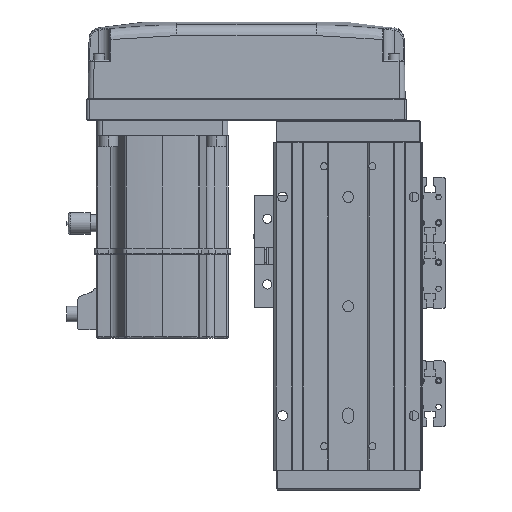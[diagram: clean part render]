
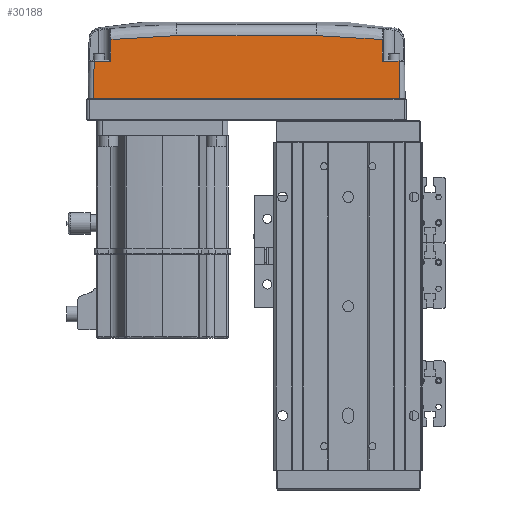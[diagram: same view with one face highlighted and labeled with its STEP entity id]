
A CAD part, front view. The second image highlights one B-rep face of the part: STEP entity #30188.
In plain terms, the highlighted planar face has unit normal (0, -1, 0.018) as drawn and (0, 1, 0.017) by its records, which use the part's own axes.
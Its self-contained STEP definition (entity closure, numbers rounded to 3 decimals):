
#286 = CARTESIAN_POINT ( 'NONE',  ( 52.017, 29.513, 27.918 ) ) ;
#619 = CARTESIAN_POINT ( 'NONE',  ( 62., 29.703, 17.009 ) ) ;
#739 = CARTESIAN_POINT ( 'NONE',  ( -37.013, 29.499, 28.712 ) ) ;
#1554 = EDGE_CURVE ( 'NONE', #19028, #39451, #9455, .T. ) ;
#2414 = EDGE_CURVE ( 'NONE', #32956, #26197, #27124, .T. ) ;
#2569 = CARTESIAN_POINT ( 'NONE',  ( 32., 29.498, 28.761 ) ) ;
#2983 = DIRECTION ( 'NONE',  ( 1., 0., 0. ) ) ;
#3517 = CARTESIAN_POINT ( 'NONE',  ( 37.013, 29.499, 28.712 ) ) ;
#3842 = LINE ( 'NONE', #16990, #21296 ) ;
#3954 = CARTESIAN_POINT ( 'NONE',  ( -52.017, 29.513, 27.918 ) ) ;
#4177 = EDGE_CURVE ( 'NONE', #39451, #30010, #3842, .T. ) ;
#4755 = LINE ( 'NONE', #17896, #17301 ) ;
#5093 = VECTOR ( 'NONE', #32792, 1000. ) ;
#5143 = VECTOR ( 'NONE', #2983, 1000. ) ;
#5881 = VECTOR ( 'NONE', #15708, 1000. ) ;
#6550 = LINE ( 'NONE', #19680, #5093 ) ;
#7054 = VERTEX_POINT ( 'NONE', #22660 ) ;
#7875 = LINE ( 'NONE', #21013, #30579 ) ;
#8026 = LINE ( 'NONE', #21167, #39802 ) ;
#8646 = CARTESIAN_POINT ( 'NONE',  ( 69.703, 29.703, 17.009 ) ) ;
#8843 = CARTESIAN_POINT ( 'NONE',  ( -72.5, 29.703, 17.009 ) ) ;
#8991 = CARTESIAN_POINT ( 'NONE',  ( -72.5, 30., 0. ) ) ;
#9455 = LINE ( 'NONE', #32476, #5143 ) ;
#9904 = VERTEX_POINT ( 'NONE', #619 ) ;
#10087 = VERTEX_POINT ( 'NONE', #19126 ) ;
#10155 = CARTESIAN_POINT ( 'NONE',  ( 62., 29.529, 27.011 ) ) ;
#11455 = CARTESIAN_POINT ( 'NONE',  ( -70., 30., 0. ) ) ;
#13015 = ORIENTED_EDGE ( 'NONE', *, *, #40816, .T. ) ;
#13417 = CARTESIAN_POINT ( 'NONE',  ( 57.011, 29.52, 27.485 ) ) ;
#13866 = CARTESIAN_POINT ( 'NONE',  ( -34.508, 29.498, 28.761 ) ) ;
#14312 = EDGE_CURVE ( 'NONE', #7054, #32956, #32055, .T. ) ;
#14373 = CARTESIAN_POINT ( 'NONE',  ( -62., 29.529, 27.011 ) ) ;
#15708 = DIRECTION ( 'NONE',  ( 1., 0., 0. ) ) ;
#16650 = CARTESIAN_POINT ( 'NONE',  ( 42.018, 29.502, 28.532 ) ) ;
#16990 = CARTESIAN_POINT ( 'NONE',  ( -62., 30., 0. ) ) ;
#17101 = CARTESIAN_POINT ( 'NONE',  ( -44.519, 29.504, 28.4 ) ) ;
#17283 = CARTESIAN_POINT ( 'NONE',  ( -62., 29.703, 17.009 ) ) ;
#17301 = VECTOR ( 'NONE', #31024, 1000. ) ;
#17896 = CARTESIAN_POINT ( 'NONE',  ( -70.001, 30.001, -0.044 ) ) ;
#18021 = EDGE_CURVE ( 'NONE', #30010, #7054, #37636, .T. ) ;
#19028 = VERTEX_POINT ( 'NONE', #30682 ) ;
#19126 = CARTESIAN_POINT ( 'NONE',  ( 70., 30., 0. ) ) ;
#19680 = CARTESIAN_POINT ( 'NONE',  ( -72.5, 30., 0. ) ) ;
#19899 = CARTESIAN_POINT ( 'NONE',  ( 32., 29.498, 28.761 ) ) ;
#20337 = CARTESIAN_POINT ( 'NONE',  ( -62., 29.529, 27.011 ) ) ;
#20474 = ORIENTED_EDGE ( 'NONE', *, *, #29493, .T. ) ;
#20858 = ORIENTED_EDGE ( 'NONE', *, *, #21109, .T. ) ;
#20949 = AXIS2_PLACEMENT_3D ( 'NONE', #8991, #22122, #35243 ) ;
#21013 = CARTESIAN_POINT ( 'NONE',  ( 62., 29.695, 17.5 ) ) ;
#21109 = EDGE_CURVE ( 'NONE', #38553, #19028, #4755, .T. ) ;
#21167 = CARTESIAN_POINT ( 'NONE',  ( 69.957, 29.957, 2.486 ) ) ;
#21208 = EDGE_CURVE ( 'NONE', #9904, #26992, #38337, .T. ) ;
#21296 = VECTOR ( 'NONE', #30115, 1000. ) ;
#21985 = DIRECTION ( 'NONE',  ( 1., 0., 0. ) ) ;
#22122 = DIRECTION ( 'NONE',  ( 0., 1., 0.017 ) ) ;
#22660 = CARTESIAN_POINT ( 'NONE',  ( -32., 29.498, 28.761 ) ) ;
#25349 = FACE_OUTER_BOUND ( 'NONE', #38071, .T. ) ;
#25495 = EDGE_CURVE ( 'NONE', #26197, #9904, #7875, .T. ) ;
#25558 = ORIENTED_EDGE ( 'NONE', *, *, #1554, .T. ) ;
#26197 = VERTEX_POINT ( 'NONE', #10155 ) ;
#26552 = CARTESIAN_POINT ( 'NONE',  ( 62., 29.529, 27.011 ) ) ;
#26991 = CARTESIAN_POINT ( 'NONE',  ( -32., 29.498, 28.761 ) ) ;
#26992 = VERTEX_POINT ( 'NONE', #8646 ) ;
#27124 = B_SPLINE_CURVE_WITH_KNOTS ( 'NONE', 3,
 ( #19899, #33008, #3517, #16650, #29771, #286, #13417, #26552 ),
 .UNSPECIFIED., .F., .F.,
 ( 4, 2, 2, 4 ),
 ( 0., 0.008, 0.015, 0.03 ),
 .UNSPECIFIED. ) ;
#28912 = ORIENTED_EDGE ( 'NONE', *, *, #4177, .T. ) ;
#29493 = EDGE_CURVE ( 'NONE', #10087, #38553, #6550, .T. ) ;
#29771 = CARTESIAN_POINT ( 'NONE',  ( 44.519, 29.504, 28.4 ) ) ;
#30010 = VERTEX_POINT ( 'NONE', #14373 ) ;
#30115 = DIRECTION ( 'NONE',  ( 0., -0.017, 1. ) ) ;
#30188 = ADVANCED_FACE ( 'NONE', ( #25349 ), #38488, .T. ) ;
#30221 = CARTESIAN_POINT ( 'NONE',  ( -42.018, 29.502, 28.532 ) ) ;
#30405 = ORIENTED_EDGE ( 'NONE', *, *, #2414, .T. ) ;
#30579 = VECTOR ( 'NONE', #34133, 1000. ) ;
#30682 = CARTESIAN_POINT ( 'NONE',  ( -69.703, 29.703, 17.009 ) ) ;
#31024 = DIRECTION ( 'NONE',  ( 0.017, -0.017, 1. ) ) ;
#32055 = LINE ( 'NONE', #2569, #5881 ) ;
#32476 = CARTESIAN_POINT ( 'NONE',  ( -72.5, 29.703, 17.009 ) ) ;
#32792 = DIRECTION ( 'NONE',  ( -1., 0., 0. ) ) ;
#32956 = VERTEX_POINT ( 'NONE', #38474 ) ;
#33008 = CARTESIAN_POINT ( 'NONE',  ( 34.508, 29.498, 28.761 ) ) ;
#33441 = CARTESIAN_POINT ( 'NONE',  ( -57.011, 29.52, 27.485 ) ) ;
#33630 = ORIENTED_EDGE ( 'NONE', *, *, #18021, .T. ) ;
#34133 = DIRECTION ( 'NONE',  ( 0., 0.017, -1. ) ) ;
#34292 = DIRECTION ( 'NONE',  ( 0.017, 0.017, -1. ) ) ;
#35243 = DIRECTION ( 'NONE',  ( 0., -0.017, 1. ) ) ;
#36340 = ORIENTED_EDGE ( 'NONE', *, *, #21208, .T. ) ;
#37636 = B_SPLINE_CURVE_WITH_KNOTS ( 'NONE', 3,
 ( #20337, #33441, #3954, #17101, #30221, #739, #13866, #26991 ),
 .UNSPECIFIED., .F., .F.,
 ( 4, 2, 2, 4 ),
 ( 0.008, 0.023, 0.03, 0.038 ),
 .UNSPECIFIED. ) ;
#38071 = EDGE_LOOP ( 'NONE', ( #38410, #36340, #13015, #20474, #20858, #25558, #28912, #33630, #40874, #30405 ) ) ;
#38337 = LINE ( 'NONE', #8843, #39315 ) ;
#38410 = ORIENTED_EDGE ( 'NONE', *, *, #25495, .T. ) ;
#38474 = CARTESIAN_POINT ( 'NONE',  ( 32., 29.498, 28.761 ) ) ;
#38488 = PLANE ( 'NONE',  #20949 ) ;
#38553 = VERTEX_POINT ( 'NONE', #11455 ) ;
#39315 = VECTOR ( 'NONE', #21985, 1000. ) ;
#39451 = VERTEX_POINT ( 'NONE', #17283 ) ;
#39802 = VECTOR ( 'NONE', #34292, 1000. ) ;
#40816 = EDGE_CURVE ( 'NONE', #26992, #10087, #8026, .T. ) ;
#40874 = ORIENTED_EDGE ( 'NONE', *, *, #14312, .T. ) ;
